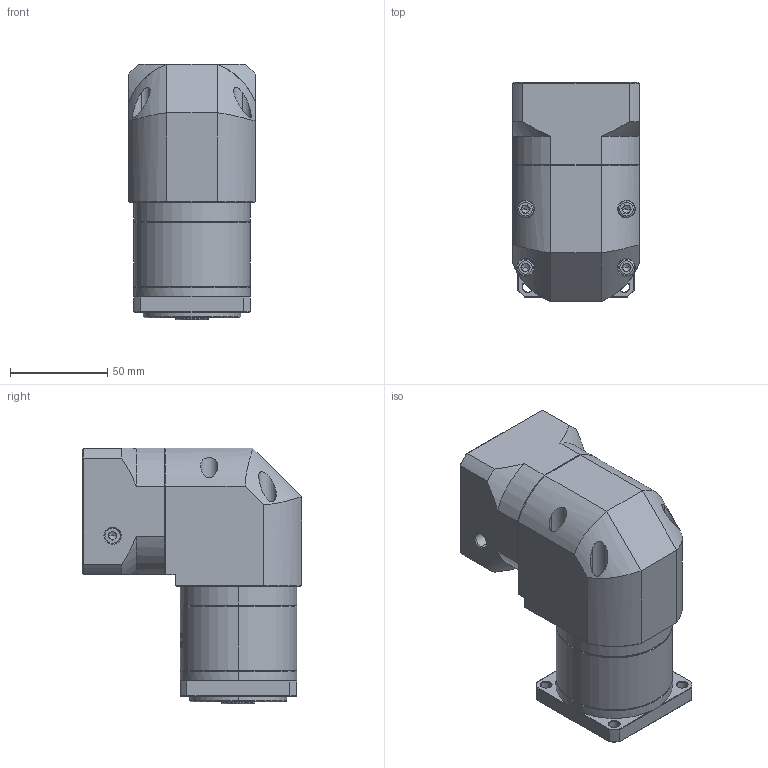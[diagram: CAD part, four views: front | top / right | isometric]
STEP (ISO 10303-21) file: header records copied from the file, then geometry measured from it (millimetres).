
FILE_DESCRIPTION (( 'STEP AP214' ), '1' );
FILE_NAME ('ZFR060-K10-L1-P2-14-60-75-M6.step', '2023-08-17T03:37:32', ( '' ), ( '' ), 'SwSTEP 2.0', 'SolidWorks 2016', '' );
FILE_SCHEMA (( 'AUTOMOTIVE_DESIGN' ));
Length unit declared in the file: millimetre
Products named in the file (1): ZFR060-K10-L1-P2-14-60-75-M6
Bounding box: 65 x 112.7 x 131.5 mm (x, y, z)
Volume: 544119.7 mm3; surface area: 79121.3 mm2
Topology: 5 solids, 6 shells, 1857 faces, 4983 edges, 3222 vertices
Faces by surface type: plane 840, cylinder 364, bspline 347, cone 282, torus 24
Entity records: 100276 total; most frequent: CARTESIAN_POINT 37225, ORIENTED_EDGE 9926, DIRECTION 7478, EDGE_CURVE 4963, VERTEX_POINT 3222, LINE 2554, VECTOR 2554, AXIS2_PLACEMENT_3D 2462
